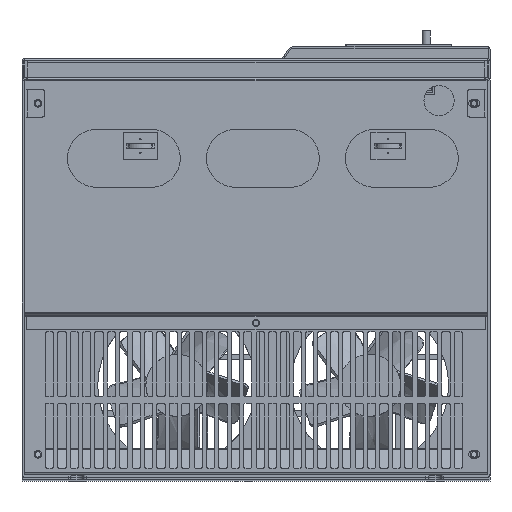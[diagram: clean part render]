
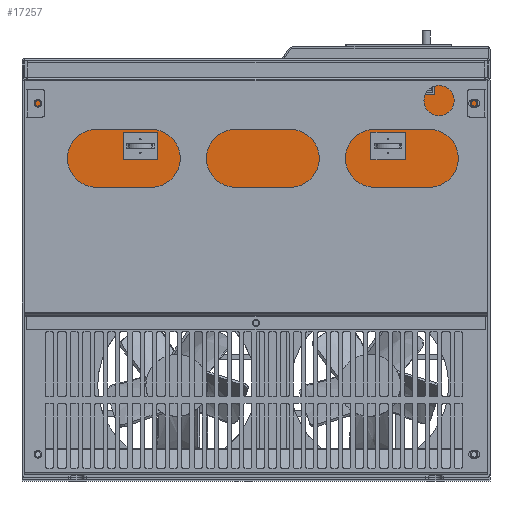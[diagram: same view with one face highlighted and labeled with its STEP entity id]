
A CAD part, top view. The second image highlights one B-rep face of the part: STEP entity #17257.
In plain terms, the highlighted planar face has unit normal (0, 0, 1) as drawn and (0, 1, 0) by its records, which use the part's own axes.
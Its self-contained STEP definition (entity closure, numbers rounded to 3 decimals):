
#275 = FACE_OUTER_BOUND ( 'NONE', #94596, .T. ) ;
#3266 = EDGE_CURVE ( 'NONE', #23192, #74900, #54757, .T. ) ;
#3939 = EDGE_CURVE ( 'NONE', #37522, #69936, #69017, .T. ) ;
#4364 = CARTESIAN_POINT ( 'NONE',  ( -158., 1.5, -168.5 ) ) ;
#6562 = ORIENTED_EDGE ( 'NONE', *, *, #27272, .F. ) ;
#8012 = EDGE_CURVE ( 'NONE', #80712, #55125, #54106, .T. ) ;
#8196 = VECTOR ( 'NONE', #83261, 1000. ) ;
#8831 = DIRECTION ( 'NONE',  ( 0., -1., 0. ) ) ;
#10130 = CARTESIAN_POINT ( 'NONE',  ( -156.4, 1.5, -125. ) ) ;
#11081 = CARTESIAN_POINT ( 'NONE',  ( -156.406, 1.5, 166.5 ) ) ;
#12239 = VECTOR ( 'NONE', #93218, 1000. ) ;
#14981 = LINE ( 'NONE', #22953, #12239 ) ;
#17257 = ADVANCED_FACE ( 'NONE', ( #275 ), #26130, .F. ) ;
#17504 = CARTESIAN_POINT ( 'NONE',  ( -156.4, 1.5, 125. ) ) ;
#17893 = CARTESIAN_POINT ( 'NONE',  ( -156.4, 1.5, 125. ) ) ;
#21545 = VECTOR ( 'NONE', #45531, 1000. ) ;
#21727 = B_SPLINE_CURVE_WITH_KNOTS ( 'NONE', 3,
 ( #58702, #113869, #70100, #17504 ),
 .UNSPECIFIED., .F., .F.,
 ( 4, 4 ),
 ( 0., 1. ),
 .UNSPECIFIED. ) ;
#22953 = CARTESIAN_POINT ( 'NONE',  ( -156.4, 1.5, 168.5 ) ) ;
#23192 = VERTEX_POINT ( 'NONE', #27574 ) ;
#25064 = LINE ( 'NONE', #46477, #112966 ) ;
#26130 = PLANE ( 'NONE',  #43559 ) ;
#27272 = EDGE_CURVE ( 'NONE', #69936, #23192, #25064, .T. ) ;
#27574 = CARTESIAN_POINT ( 'NONE',  ( -18.1, 1.5, 168.5 ) ) ;
#28204 = ORIENTED_EDGE ( 'NONE', *, *, #29592, .F. ) ;
#28409 = CARTESIAN_POINT ( 'NONE',  ( -156.4, 1.5, 168.5 ) ) ;
#28996 = CARTESIAN_POINT ( 'NONE',  ( -156.407, 1.5, -143.453 ) ) ;
#29592 = EDGE_CURVE ( 'NONE', #53094, #37522, #101646, .T. ) ;
#30797 = VECTOR ( 'NONE', #54676, 1000. ) ;
#33257 = ORIENTED_EDGE ( 'NONE', *, *, #91654, .F. ) ;
#34152 = VECTOR ( 'NONE', #56748, 1000. ) ;
#36694 = CARTESIAN_POINT ( 'NONE',  ( -156.4, 1.5, 168.5 ) ) ;
#37522 = VERTEX_POINT ( 'NONE', #60254 ) ;
#37672 = DIRECTION ( 'NONE',  ( 0., 0., 1. ) ) ;
#39216 = CARTESIAN_POINT ( 'NONE',  ( -156.4, 1.5, -168.5 ) ) ;
#42783 = CARTESIAN_POINT ( 'NONE',  ( -156.4, 1.5, -105. ) ) ;
#43559 = AXIS2_PLACEMENT_3D ( 'NONE', #105184, #8831, #70258 ) ;
#43574 = CARTESIAN_POINT ( 'NONE',  ( -18.1, 1.5, -168.5 ) ) ;
#43874 = EDGE_CURVE ( 'NONE', #97496, #80712, #112181, .T. ) ;
#45531 = DIRECTION ( 'NONE',  ( 0., 0., -1. ) ) ;
#46477 = CARTESIAN_POINT ( 'NONE',  ( -18.1, 1.5, 168.5 ) ) ;
#53094 = VERTEX_POINT ( 'NONE', #88772 ) ;
#54106 = LINE ( 'NONE', #72322, #30797 ) ;
#54676 = DIRECTION ( 'NONE',  ( 0., 0., -1. ) ) ;
#54757 = LINE ( 'NONE', #109310, #34152 ) ;
#55125 = VERTEX_POINT ( 'NONE', #10130 ) ;
#55454 = CARTESIAN_POINT ( 'NONE',  ( -156.407, 1.5, -166.5 ) ) ;
#56748 = DIRECTION ( 'NONE',  ( -1., 0., 0. ) ) ;
#58702 = CARTESIAN_POINT ( 'NONE',  ( -156.406, 1.5, 166.5 ) ) ;
#60254 = CARTESIAN_POINT ( 'NONE',  ( -156.4, 1.5, -168.5 ) ) ;
#60962 = ORIENTED_EDGE ( 'NONE', *, *, #3266, .F. ) ;
#61746 = EDGE_CURVE ( 'NONE', #101622, #73622, #21727, .T. ) ;
#63708 = CARTESIAN_POINT ( 'NONE',  ( -156.4, 1.5, 167.167 ) ) ;
#65759 = DIRECTION ( 'NONE',  ( 1., 0., 0. ) ) ;
#68788 = ORIENTED_EDGE ( 'NONE', *, *, #61746, .F. ) ;
#69017 = LINE ( 'NONE', #4364, #74514 ) ;
#69382 = B_SPLINE_CURVE_WITH_KNOTS ( 'NONE', 3,
 ( #99247, #28996, #107999, #55454 ),
 .UNSPECIFIED., .F., .F.,
 ( 4, 4 ),
 ( 0., 1. ),
 .UNSPECIFIED. ) ;
#69415 = EDGE_CURVE ( 'NONE', #73622, #97496, #14981, .T. ) ;
#69897 = ORIENTED_EDGE ( 'NONE', *, *, #84655, .F. ) ;
#69936 = VERTEX_POINT ( 'NONE', #43574 ) ;
#70100 = CARTESIAN_POINT ( 'NONE',  ( -156.405, 1.5, 143.45 ) ) ;
#70258 = DIRECTION ( 'NONE',  ( 0., 0., -1. ) ) ;
#72322 = CARTESIAN_POINT ( 'NONE',  ( -156.4, 1.5, 168.5 ) ) ;
#73622 = VERTEX_POINT ( 'NONE', #17893 ) ;
#74514 = VECTOR ( 'NONE', #65759, 1000. ) ;
#74900 = VERTEX_POINT ( 'NONE', #84700 ) ;
#79728 = B_SPLINE_CURVE_WITH_KNOTS ( 'NONE', 3,
 ( #28409, #107081, #63708, #11081 ),
 .UNSPECIFIED., .F., .F.,
 ( 4, 4 ),
 ( 0., 1. ),
 .UNSPECIFIED. ) ;
#80712 = VERTEX_POINT ( 'NONE', #42783 ) ;
#83261 = DIRECTION ( 'NONE',  ( 0., 0., -1. ) ) ;
#84655 = EDGE_CURVE ( 'NONE', #55125, #53094, #69382, .T. ) ;
#84700 = CARTESIAN_POINT ( 'NONE',  ( -156.4, 1.5, 168.5 ) ) ;
#85408 = ORIENTED_EDGE ( 'NONE', *, *, #43874, .F. ) ;
#88707 = ORIENTED_EDGE ( 'NONE', *, *, #69415, .F. ) ;
#88772 = CARTESIAN_POINT ( 'NONE',  ( -156.407, 1.5, -166.5 ) ) ;
#89338 = ORIENTED_EDGE ( 'NONE', *, *, #3939, .F. ) ;
#91654 = EDGE_CURVE ( 'NONE', #74900, #101622, #79728, .T. ) ;
#92136 = CARTESIAN_POINT ( 'NONE',  ( -156.406, 1.5, 166.5 ) ) ;
#93218 = DIRECTION ( 'NONE',  ( 0., 0., -1. ) ) ;
#94596 = EDGE_LOOP ( 'NONE', ( #89338, #28204, #69897, #95366, #85408, #88707, #68788, #33257, #60962, #6562 ) ) ;
#95366 = ORIENTED_EDGE ( 'NONE', *, *, #8012, .F. ) ;
#97496 = VERTEX_POINT ( 'NONE', #110466 ) ;
#99247 = CARTESIAN_POINT ( 'NONE',  ( -156.4, 1.5, -125. ) ) ;
#101622 = VERTEX_POINT ( 'NONE', #92136 ) ;
#101646 = LINE ( 'NONE', #39216, #8196 ) ;
#105184 = CARTESIAN_POINT ( 'NONE',  ( -158., 1.5, 168.5 ) ) ;
#107081 = CARTESIAN_POINT ( 'NONE',  ( -156.4, 1.5, 167.833 ) ) ;
#107999 = CARTESIAN_POINT ( 'NONE',  ( -156.409, 1.5, -157.286 ) ) ;
#109310 = CARTESIAN_POINT ( 'NONE',  ( -158., 1.5, 168.5 ) ) ;
#110466 = CARTESIAN_POINT ( 'NONE',  ( -156.4, 1.5, 105. ) ) ;
#112181 = LINE ( 'NONE', #36694, #21545 ) ;
#112966 = VECTOR ( 'NONE', #37672, 1000. ) ;
#113869 = CARTESIAN_POINT ( 'NONE',  ( -156.408, 1.5, 157.284 ) ) ;
